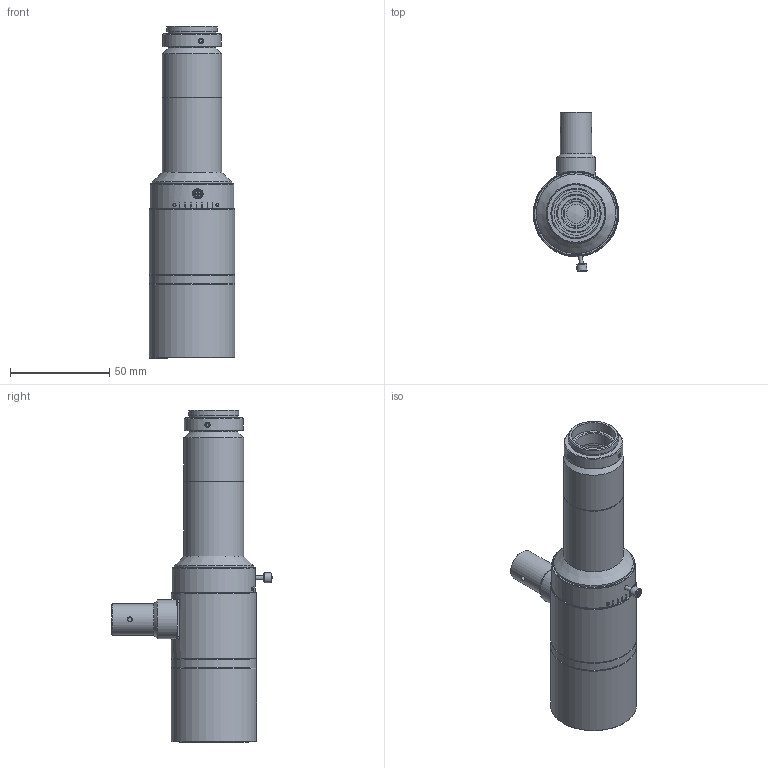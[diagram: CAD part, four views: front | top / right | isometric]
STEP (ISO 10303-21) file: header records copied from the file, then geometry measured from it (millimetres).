
FILE_DESCRIPTION(('STEP AP214'),'1');
FILE_NAME('TPC3-HMS110D-SWIR.stp','2026-06-01T10:02:06',(' '),(' '),'Spatial InterOp 3D',' ',' ');
FILE_SCHEMA(('AUTOMOTIVE_DESIGN { 1 0 10303 214 1 1 1 1 }'));
Length unit declared in the file: metre
Products named in the file (2): TPC3-HMS110D-SWIR; Component1
Assembly tree (1 placements, depth 2):
  TPC3-HMS110D-SWIR
    Component1
Bounding box: 43 x 80.51 x 167.01 mm (x, y, z)
Volume: 86167.4 mm3; surface area: 50670.2 mm2
Topology: 1 solids, 24 shells, 629 faces, 1396 edges, 904 vertices
Faces by surface type: plane 274, cylinder 158, cone 135, bspline 46, torus 9, sphere 7
Full cylindrical faces by diameter (mm): 1 x4, 1.6 x2, 1.8 x3, 2 x9, 2.3 x4, 2.4 x4, 2.5 x5, 3.6 x1, 5 x1, 6 x1, 8 x1, 12 x1, 14 x1, 14.2 x1, 14.4 x1, 15.2 x1, 15.8 x1, 16 x1, 17 x1, 17.5 x1, 18.4 x1, 18.5 x2, 19.2 x1, 19.5 x1, 20 x1, 21.4 x1, 22 x1, 22.2 x1, 22.5 x1, 23.4 x1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
Entity records: 26738 total; most frequent: CARTESIAN_POINT 9131, DIRECTION 2555, ORIENTED_EDGE 2232, AXIS2_PLACEMENT_3D 1128, EDGE_CURVE 1116, EDGE_LOOP 962, VERTEX_POINT 834, FACE_OUTER_BOUND 753
